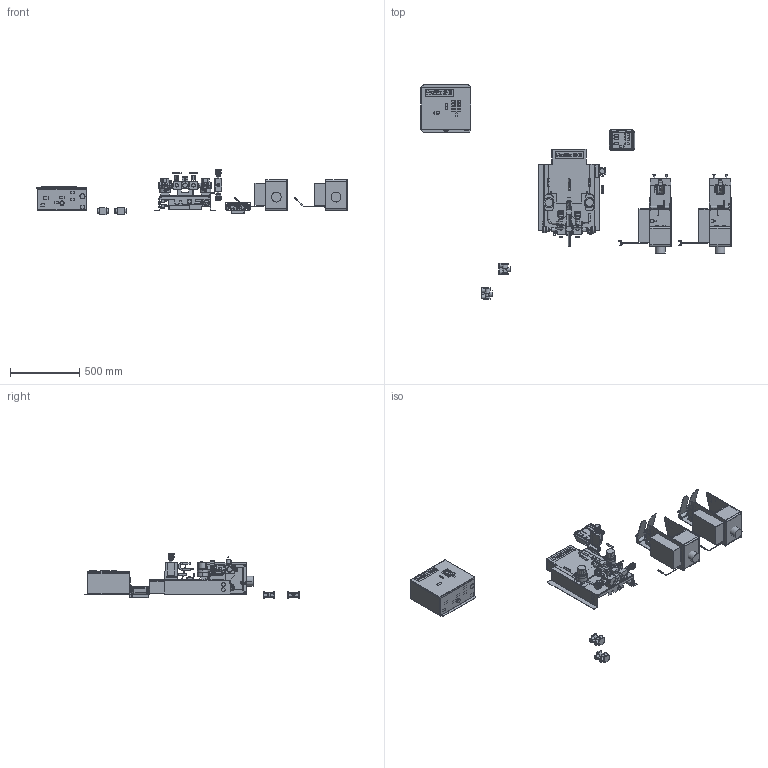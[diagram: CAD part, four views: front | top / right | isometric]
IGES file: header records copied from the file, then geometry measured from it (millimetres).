
Start section:  PTC IGES file: me1001-en-e.igs
Global section: file name: me1001-en-e.igs; native system: Creo Parametric by PTC Inc.; preprocessor: 2021072; author: qtmwp1; organization: Unknown; date: 20231107.144054; units: inch
Bounding box: 2241.3 x 1547.62 x 325.97 mm (x, y, z)
Surface area: 4151433.8 mm2 (no closed solid volume)
Topology: 0 solids, 0 shells, 1367 faces, 7754 edges, 7754 vertices
Faces by surface type: bspline 790, revolution 577
